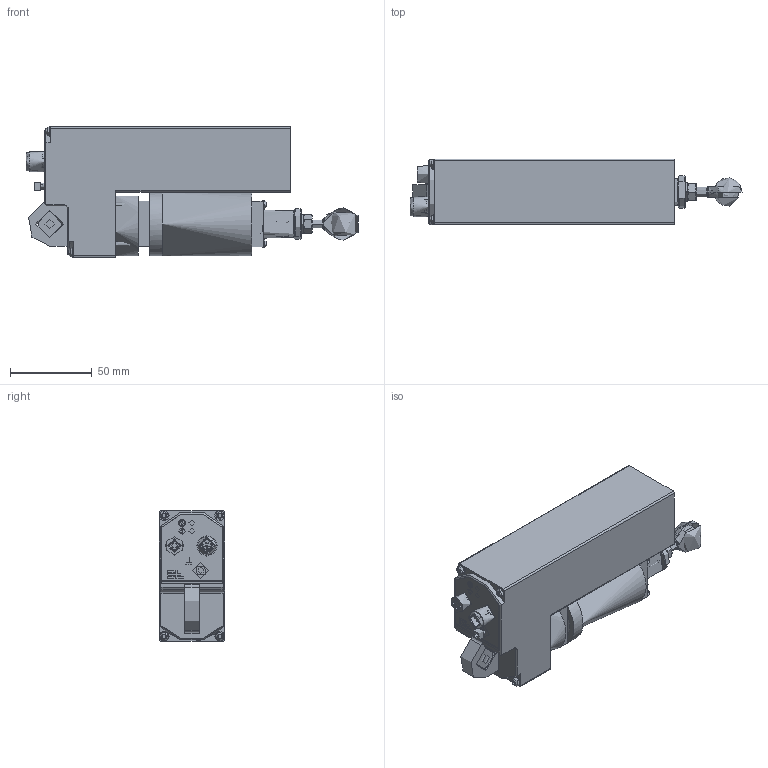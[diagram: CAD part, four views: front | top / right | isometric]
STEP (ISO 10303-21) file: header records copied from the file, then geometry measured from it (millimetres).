
FILE_DESCRIPTION (( 'STEP AP214' ), '1' );
FILE_NAME ('AG_7233+-15.STEP0.STEP', '2024-05-23T08:30:52', ( '' ), ( '' ), 'SwSTEP 2.0', 'SolidWorks 2022', '' );
FILE_SCHEMA (( 'AUTOMOTIVE_DESIGN' ));
Length unit declared in the file: millimetre
Products named in the file (4): 10654244-SPK-001_AG 7233 ±15; AG_7233+-15.STEP0; 10657060-SPK-001; 10654245-SPK-001_AG 7233 ±15
Assembly tree (3 placements, depth 2):
  AG_7233+-15.STEP0
    10654244-SPK-001_AG 7233 ±15
    10654245-SPK-001_AG 7233 ±15
    10657060-SPK-001
Bounding box: 203.16 x 40 x 80 mm (x, y, z)
Topology: 23 solids, 36 shells, 1011 faces, 2486 edges, 1605 vertices
Faces by surface type: plane 438, cylinder 386, cone 98, torus 49, bspline 32, sphere 8
Full cylindrical faces by diameter (mm): 0.87 x4, 1.5 x4, 1.55 x1, 1.948 x4, 2.05 x10, 2.387 x2, 2.5 x4, 2.7 x12, 2.845 x2, 2.934 x2, 3 x4, 3.141 x1, 3.2 x4, 3.3 x1, 3.4 x2, 3.5 x2, 3.676 x1, 4 x3, 4.2 x1, 4.201 x1, 4.917 x1, 5 x1, 5.7 x1, 5.9 x2, 6 x1, 7 x2, 7.4 x1, 7.9 x1, 8.1 x1, 8.85 x1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
Entity records: 51280 total; most frequent: CARTESIAN_POINT 17930, DIRECTION 4888, ORIENTED_EDGE 4346, EDGE_CURVE 2173, AXIS2_PLACEMENT_3D 1960, VERTEX_POINT 1509, EDGE_LOOP 1346, FACE_OUTER_BOUND 1157
